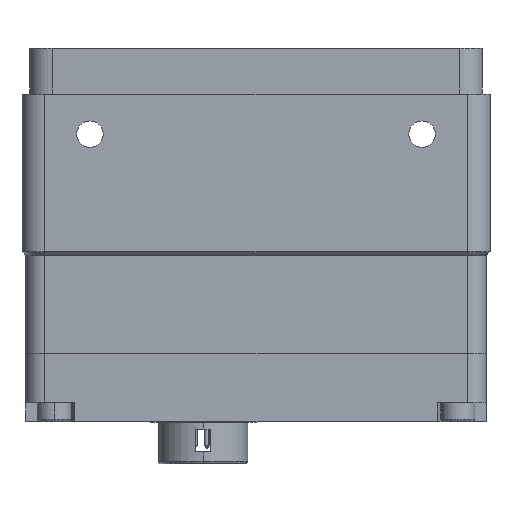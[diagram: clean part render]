
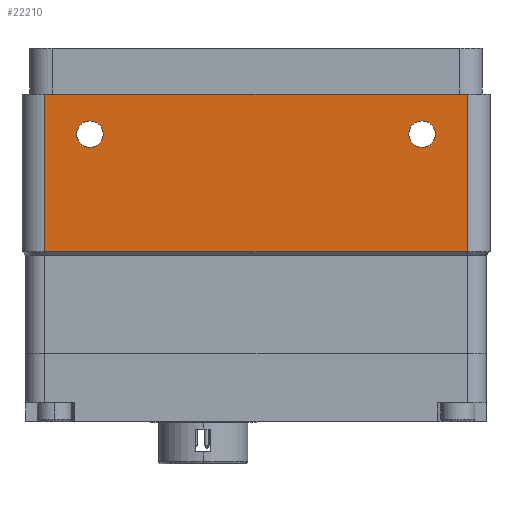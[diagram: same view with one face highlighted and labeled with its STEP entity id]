
A CAD part, left-side view. The second image highlights one B-rep face of the part: STEP entity #22210.
In plain terms, the highlighted planar face has unit normal (-1, 0, 0).
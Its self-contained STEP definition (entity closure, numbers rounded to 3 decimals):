
#1356 = DIRECTION ( 'NONE',  ( -1., 0., 0. ) ) ;
#1657 = AXIS2_PLACEMENT_3D ( 'NONE', #24126, #16349, #22128 ) ;
#1713 = VERTEX_POINT ( 'NONE', #12951 ) ;
#1745 = ORIENTED_EDGE ( 'NONE', *, *, #16139, .T. ) ;
#1976 = CARTESIAN_POINT ( 'NONE',  ( -31., -22., -10.65 ) ) ;
#2710 = CIRCLE ( 'NONE', #22716, 1.75 ) ;
#3116 = CARTESIAN_POINT ( 'NONE',  ( -31., 22., -8.9 ) ) ;
#3435 = LINE ( 'NONE', #7122, #19861 ) ;
#4171 = VERTEX_POINT ( 'NONE', #1976 ) ;
#4453 = CARTESIAN_POINT ( 'NONE',  ( -31., 28., -3.6 ) ) ;
#4585 = EDGE_LOOP ( 'NONE', ( #14479, #7206, #1745, #21590 ) ) ;
#5000 = EDGE_CURVE ( 'NONE', #11947, #12291, #12646, .T. ) ;
#5994 = FACE_BOUND ( 'NONE', #9982, .T. ) ;
#6300 = CARTESIAN_POINT ( 'NONE',  ( -31., 31., -30.46 ) ) ;
#7122 = CARTESIAN_POINT ( 'NONE',  ( -31., 31., -24.48 ) ) ;
#7206 = ORIENTED_EDGE ( 'NONE', *, *, #7652, .T. ) ;
#7240 = DIRECTION ( 'NONE',  ( 0., 0., -1. ) ) ;
#7652 = EDGE_CURVE ( 'NONE', #11098, #21713, #13243, .T. ) ;
#8205 = VERTEX_POINT ( 'NONE', #20739 ) ;
#8866 = CARTESIAN_POINT ( 'NONE',  ( -31., 22., -10.65 ) ) ;
#9173 = CARTESIAN_POINT ( 'NONE',  ( -31., 28., -30.46 ) ) ;
#9616 = FACE_OUTER_BOUND ( 'NONE', #4585, .T. ) ;
#9982 = EDGE_LOOP ( 'NONE', ( #13105, #20332 ) ) ;
#10081 = PLANE ( 'NONE',  #20158 ) ;
#10186 = VECTOR ( 'NONE', #21681, 1000. ) ;
#10357 = CIRCLE ( 'NONE', #13282, 1.75 ) ;
#10901 = CARTESIAN_POINT ( 'NONE',  ( -31., -22., -8.9 ) ) ;
#10957 = DIRECTION ( 'NONE',  ( 0., -1., 0. ) ) ;
#11098 = VERTEX_POINT ( 'NONE', #4453 ) ;
#11430 = DIRECTION ( 'NONE',  ( 0., 0., 1. ) ) ;
#11945 = FACE_BOUND ( 'NONE', #12859, .T. ) ;
#11947 = VERTEX_POINT ( 'NONE', #8866 ) ;
#12052 = CARTESIAN_POINT ( 'NONE',  ( -31., 31., -3.6 ) ) ;
#12291 = VERTEX_POINT ( 'NONE', #22192 ) ;
#12646 = CIRCLE ( 'NONE', #20242, 1.75 ) ;
#12859 = EDGE_LOOP ( 'NONE', ( #20646, #17736 ) ) ;
#12951 = CARTESIAN_POINT ( 'NONE',  ( -31., -22., -7.15 ) ) ;
#13052 = DIRECTION ( 'NONE',  ( 0., 0., -1. ) ) ;
#13105 = ORIENTED_EDGE ( 'NONE', *, *, #5000, .F. ) ;
#13243 = LINE ( 'NONE', #9173, #22240 ) ;
#13282 = AXIS2_PLACEMENT_3D ( 'NONE', #20918, #24583, #7240 ) ;
#13529 = VERTEX_POINT ( 'NONE', #22885 ) ;
#14479 = ORIENTED_EDGE ( 'NONE', *, *, #22347, .F. ) ;
#14577 = EDGE_CURVE ( 'NONE', #1713, #4171, #10357, .T. ) ;
#15260 = VECTOR ( 'NONE', #11430, 1000. ) ;
#15527 = CARTESIAN_POINT ( 'NONE',  ( -31., 28., -24.48 ) ) ;
#15561 = EDGE_CURVE ( 'NONE', #12291, #11947, #24078, .T. ) ;
#16139 = EDGE_CURVE ( 'NONE', #21713, #8205, #3435, .T. ) ;
#16349 = DIRECTION ( 'NONE',  ( -1., 0., 0. ) ) ;
#16398 = DIRECTION ( 'NONE',  ( 0., 0., -1. ) ) ;
#17410 = DIRECTION ( 'NONE',  ( 0., 0., 1. ) ) ;
#17660 = LINE ( 'NONE', #22552, #15260 ) ;
#17736 = ORIENTED_EDGE ( 'NONE', *, *, #14577, .F. ) ;
#17834 = EDGE_CURVE ( 'NONE', #8205, #13529, #17660, .T. ) ;
#19593 = DIRECTION ( 'NONE',  ( 1., 0., 0. ) ) ;
#19861 = VECTOR ( 'NONE', #10957, 1000. ) ;
#20158 = AXIS2_PLACEMENT_3D ( 'NONE', #6300, #19593, #17410 ) ;
#20242 = AXIS2_PLACEMENT_3D ( 'NONE', #3116, #1356, #20394 ) ;
#20332 = ORIENTED_EDGE ( 'NONE', *, *, #15561, .F. ) ;
#20394 = DIRECTION ( 'NONE',  ( 0., 0., -1. ) ) ;
#20646 = ORIENTED_EDGE ( 'NONE', *, *, #22427, .F. ) ;
#20739 = CARTESIAN_POINT ( 'NONE',  ( -31., -28., -24.48 ) ) ;
#20918 = CARTESIAN_POINT ( 'NONE',  ( -31., -22., -8.9 ) ) ;
#21590 = ORIENTED_EDGE ( 'NONE', *, *, #17834, .T. ) ;
#21681 = DIRECTION ( 'NONE',  ( 0., -1., 0. ) ) ;
#21713 = VERTEX_POINT ( 'NONE', #15527 ) ;
#22128 = DIRECTION ( 'NONE',  ( 0., 0., -1. ) ) ;
#22192 = CARTESIAN_POINT ( 'NONE',  ( -31., 22., -7.15 ) ) ;
#22210 = ADVANCED_FACE ( 'NONE', ( #11945, #5994, #9616 ), #10081, .F. ) ;
#22240 = VECTOR ( 'NONE', #13052, 1000. ) ;
#22347 = EDGE_CURVE ( 'NONE', #11098, #13529, #24497, .T. ) ;
#22427 = EDGE_CURVE ( 'NONE', #4171, #1713, #2710, .T. ) ;
#22552 = CARTESIAN_POINT ( 'NONE',  ( -31., -28., -30.46 ) ) ;
#22716 = AXIS2_PLACEMENT_3D ( 'NONE', #10901, #24253, #16398 ) ;
#22885 = CARTESIAN_POINT ( 'NONE',  ( -31., -28., -3.6 ) ) ;
#24078 = CIRCLE ( 'NONE', #1657, 1.75 ) ;
#24126 = CARTESIAN_POINT ( 'NONE',  ( -31., 22., -8.9 ) ) ;
#24253 = DIRECTION ( 'NONE',  ( -1., 0., 0. ) ) ;
#24497 = LINE ( 'NONE', #12052, #10186 ) ;
#24583 = DIRECTION ( 'NONE',  ( -1., 0., 0. ) ) ;
